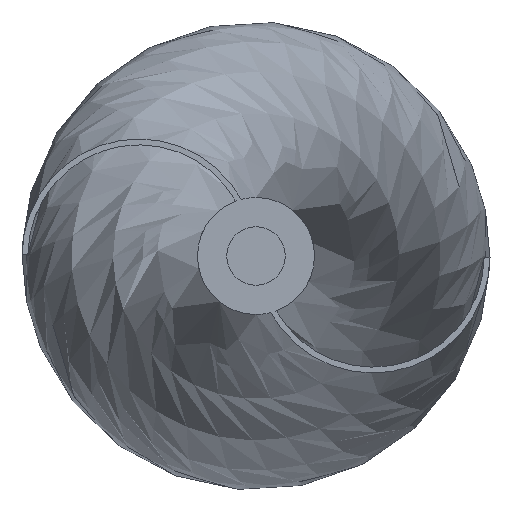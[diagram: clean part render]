
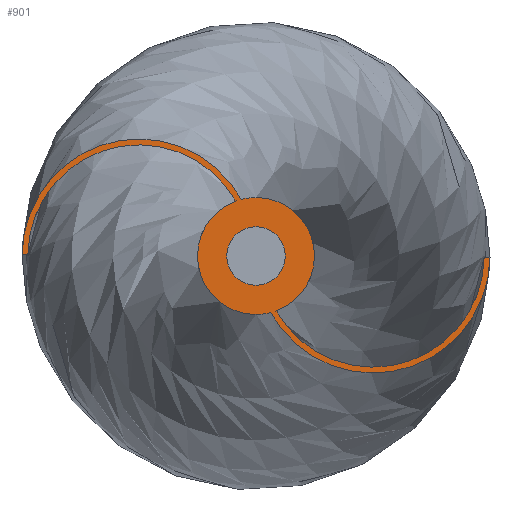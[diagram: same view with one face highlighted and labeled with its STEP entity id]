
A CAD part, front view. The second image highlights one B-rep face of the part: STEP entity #901.
In plain terms, the highlighted planar face has unit normal (0, -1, 0).
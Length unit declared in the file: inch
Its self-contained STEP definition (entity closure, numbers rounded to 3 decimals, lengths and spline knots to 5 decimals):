
#19 = ORIENTED_EDGE ( 'NONE', *, *, #884, .T. ) ;
#53 = AXIS2_PLACEMENT_3D ( 'NONE', #1123, #1904, #1917 ) ;
#60 = DIRECTION ( 'NONE',  ( 1., 0., 0. ) ) ;
#64 = VERTEX_POINT ( 'NONE', #544 ) ;
#67 = EDGE_CURVE ( 'NONE', #907, #1342, #896, .T. ) ;
#73 = CARTESIAN_POINT ( 'NONE',  ( 0.3475, 6., -0.93768 ) ) ;
#135 = CARTESIAN_POINT ( 'NONE',  ( 0.25, 6., -0.96825 ) ) ;
#140 = EDGE_CURVE ( 'NONE', #64, #998, #1562, .T. ) ;
#165 = AXIS2_PLACEMENT_3D ( 'NONE', #174, #954, #992 ) ;
#174 = CARTESIAN_POINT ( 'NONE',  ( 0., 6., 0. ) ) ;
#189 = DIRECTION ( 'NONE',  ( 0., -1., 0. ) ) ;
#193 = ORIENTED_EDGE ( 'NONE', *, *, #781, .F. ) ;
#211 = AXIS2_PLACEMENT_3D ( 'NONE', #317, #714, #1505 ) ;
#225 = CARTESIAN_POINT ( 'NONE',  ( 0., 6., -1. ) ) ;
#251 = EDGE_CURVE ( 'NONE', #1217, #1393, #1524, .T. ) ;
#317 = CARTESIAN_POINT ( 'NONE',  ( 0., 6., 0. ) ) ;
#320 = LINE ( 'NONE', #744, #528 ) ;
#342 = DIRECTION ( 'NONE',  ( 0., -1., 0. ) ) ;
#370 = DIRECTION ( 'NONE',  ( 0.87, 0., 0.494 ) ) ;
#373 = CARTESIAN_POINT ( 'NONE',  ( -0.25, 6., 0.96825 ) ) ;
#415 = LINE ( 'NONE', #1029, #2299 ) ;
#507 = EDGE_CURVE ( 'NONE', #2476, #998, #1438, .T. ) ;
#519 = CARTESIAN_POINT ( 'NONE',  ( -2., 6., 0. ) ) ;
#528 = VECTOR ( 'NONE', #1535, 39.37008 ) ;
#530 = DIRECTION ( 'NONE',  ( 0., 0., -1. ) ) ;
#539 = ORIENTED_EDGE ( 'NONE', *, *, #67, .T. ) ;
#544 = CARTESIAN_POINT ( 'NONE',  ( 0., 6., 1. ) ) ;
#601 = FACE_BOUND ( 'NONE', #1179, .T. ) ;
#607 = ORIENTED_EDGE ( 'NONE', *, *, #2342, .F. ) ;
#688 = AXIS2_PLACEMENT_3D ( 'NONE', #2329, #342, #530 ) ;
#689 = CIRCLE ( 'NONE', #1564, 1.9 ) ;
#714 = DIRECTION ( 'NONE',  ( 0., -1., 0. ) ) ;
#715 = VERTEX_POINT ( 'NONE', #2359 ) ;
#744 = CARTESIAN_POINT ( 'NONE',  ( -3.94981, 6., 0.02753 ) ) ;
#776 = VERTEX_POINT ( 'NONE', #1392 ) ;
#781 = EDGE_CURVE ( 'NONE', #1359, #715, #1149, .T. ) ;
#785 = DIRECTION ( 'NONE',  ( 0., -1., 0. ) ) ;
#798 = CARTESIAN_POINT ( 'NONE',  ( 2., 6., 0. ) ) ;
#864 = CARTESIAN_POINT ( 'NONE',  ( 0., 6., 0. ) ) ;
#884 = EDGE_CURVE ( 'NONE', #2115, #907, #1312, .T. ) ;
#896 = CIRCLE ( 'NONE', #1191, 1. ) ;
#901 = ADVANCED_FACE ( 'NONE', ( #2335, #601 ), #1575, .T. ) ;
#907 = VERTEX_POINT ( 'NONE', #225 ) ;
#954 = DIRECTION ( 'NONE',  ( 0., -1., 0. ) ) ;
#959 = ORIENTED_EDGE ( 'NONE', *, *, #1541, .F. ) ;
#976 = DIRECTION ( 'NONE',  ( 0., -1., 0. ) ) ;
#992 = DIRECTION ( 'NONE',  ( 0., 0., -1. ) ) ;
#998 = VERTEX_POINT ( 'NONE', #373 ) ;
#1007 = DIRECTION ( 'NONE',  ( 0., -1., 0. ) ) ;
#1009 = CARTESIAN_POINT ( 'NONE',  ( 0., 6., 0. ) ) ;
#1029 = CARTESIAN_POINT ( 'NONE',  ( 3.94981, 6., -0.02753 ) ) ;
#1041 = CARTESIAN_POINT ( 'NONE',  ( 0., 6., 0.5 ) ) ;
#1063 = EDGE_CURVE ( 'NONE', #1359, #64, #1266, .T. ) ;
#1123 = CARTESIAN_POINT ( 'NONE',  ( 2., 6., 0. ) ) ;
#1149 = CIRCLE ( 'NONE', #1889, 1.9 ) ;
#1179 = EDGE_LOOP ( 'NONE', ( #1590, #959 ) ) ;
#1191 = AXIS2_PLACEMENT_3D ( 'NONE', #1009, #2313, #1225 ) ;
#1195 = CIRCLE ( 'NONE', #53, 2. ) ;
#1206 = ORIENTED_EDGE ( 'NONE', *, *, #140, .T. ) ;
#1217 = VERTEX_POINT ( 'NONE', #2101 ) ;
#1225 = DIRECTION ( 'NONE',  ( 0., 0., -1. ) ) ;
#1266 = CIRCLE ( 'NONE', #165, 1. ) ;
#1312 = CIRCLE ( 'NONE', #1394, 1. ) ;
#1331 = EDGE_CURVE ( 'NONE', #2218, #2476, #320, .T. ) ;
#1342 = VERTEX_POINT ( 'NONE', #135 ) ;
#1354 = DIRECTION ( 'NONE',  ( 0., 0., -1. ) ) ;
#1359 = VERTEX_POINT ( 'NONE', #73 ) ;
#1379 = ORIENTED_EDGE ( 'NONE', *, *, #507, .F. ) ;
#1392 = CARTESIAN_POINT ( 'NONE',  ( 3.99981, 6., -0.02753 ) ) ;
#1393 = VERTEX_POINT ( 'NONE', #1041 ) ;
#1394 = AXIS2_PLACEMENT_3D ( 'NONE', #2372, #189, #1988 ) ;
#1397 = ORIENTED_EDGE ( 'NONE', *, *, #1063, .T. ) ;
#1438 = CIRCLE ( 'NONE', #2176, 2. ) ;
#1505 = DIRECTION ( 'NONE',  ( 0., 0., -1. ) ) ;
#1524 = CIRCLE ( 'NONE', #2136, 0.5 ) ;
#1535 = DIRECTION ( 'NONE',  ( -1., 0., 0. ) ) ;
#1541 = EDGE_CURVE ( 'NONE', #1393, #1217, #1815, .T. ) ;
#1553 = ORIENTED_EDGE ( 'NONE', *, *, #1605, .F. ) ;
#1562 = CIRCLE ( 'NONE', #688, 1. ) ;
#1564 = AXIS2_PLACEMENT_3D ( 'NONE', #519, #976, #370 ) ;
#1575 = PLANE ( 'NONE',  #2455 ) ;
#1588 = DIRECTION ( 'NONE',  ( -0.87, 0., -0.494 ) ) ;
#1590 = ORIENTED_EDGE ( 'NONE', *, *, #251, .F. ) ;
#1605 = EDGE_CURVE ( 'NONE', #2115, #2218, #689, .T. ) ;
#1655 = DIRECTION ( 'NONE',  ( 0., -1., 0. ) ) ;
#1704 = CARTESIAN_POINT ( 'NONE',  ( -3.8998, 6., 0.02753 ) ) ;
#1735 = DIRECTION ( 'NONE',  ( 0., 1., 0. ) ) ;
#1815 = CIRCLE ( 'NONE', #211, 0.5 ) ;
#1857 = CARTESIAN_POINT ( 'NONE',  ( -3.99981, 6., 0.02753 ) ) ;
#1882 = EDGE_CURVE ( 'NONE', #715, #776, #415, .T. ) ;
#1889 = AXIS2_PLACEMENT_3D ( 'NONE', #798, #785, #1588 ) ;
#1904 = DIRECTION ( 'NONE',  ( 0., 1., 0. ) ) ;
#1917 = DIRECTION ( 'NONE',  ( 1., 0., -0.014 ) ) ;
#1979 = ORIENTED_EDGE ( 'NONE', *, *, #1882, .F. ) ;
#1988 = DIRECTION ( 'NONE',  ( 0., 0., -1. ) ) ;
#1993 = ORIENTED_EDGE ( 'NONE', *, *, #1331, .F. ) ;
#2074 = CARTESIAN_POINT ( 'NONE',  ( -2., 6., 0. ) ) ;
#2101 = CARTESIAN_POINT ( 'NONE',  ( 0., 6., -0.5 ) ) ;
#2104 = CARTESIAN_POINT ( 'NONE',  ( -0.3475, 6., 0.93768 ) ) ;
#2115 = VERTEX_POINT ( 'NONE', #2104 ) ;
#2129 = CARTESIAN_POINT ( 'NONE',  ( 0.5, 6., 0. ) ) ;
#2136 = AXIS2_PLACEMENT_3D ( 'NONE', #864, #1655, #2249 ) ;
#2176 = AXIS2_PLACEMENT_3D ( 'NONE', #2074, #1735, #2511 ) ;
#2218 = VERTEX_POINT ( 'NONE', #1704 ) ;
#2249 = DIRECTION ( 'NONE',  ( 0., 0., -1. ) ) ;
#2299 = VECTOR ( 'NONE', #60, 39.37008 ) ;
#2308 = EDGE_LOOP ( 'NONE', ( #19, #539, #607, #1979, #193, #1397, #1206, #1379, #1993, #1553 ) ) ;
#2313 = DIRECTION ( 'NONE',  ( 0., -1., 0. ) ) ;
#2329 = CARTESIAN_POINT ( 'NONE',  ( 0., 6., 0. ) ) ;
#2335 = FACE_OUTER_BOUND ( 'NONE', #2308, .T. ) ;
#2342 = EDGE_CURVE ( 'NONE', #776, #1342, #1195, .T. ) ;
#2359 = CARTESIAN_POINT ( 'NONE',  ( 3.8998, 6., -0.02753 ) ) ;
#2372 = CARTESIAN_POINT ( 'NONE',  ( 0., 6., 0. ) ) ;
#2455 = AXIS2_PLACEMENT_3D ( 'NONE', #2129, #1007, #1354 ) ;
#2476 = VERTEX_POINT ( 'NONE', #1857 ) ;
#2511 = DIRECTION ( 'NONE',  ( -1., 0., 0.014 ) ) ;
